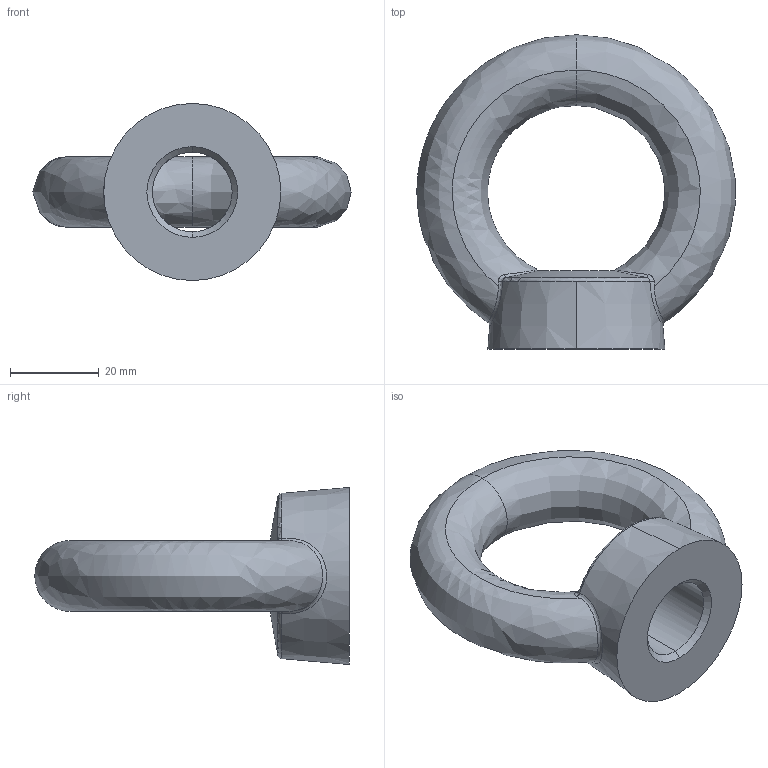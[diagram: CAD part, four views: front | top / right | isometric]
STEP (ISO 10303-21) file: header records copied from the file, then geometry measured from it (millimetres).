
FILE_DESCRIPTION (( 'STEP AP203' ), '1' );
FILE_NAME ('P4041.180-ZP.step', '2023-04-16T08:00:09', ( '' ), ( '' ), 'SwSTEP 2.0', 'SolidWorks 2019', '' );
FILE_SCHEMA (( 'CONFIG_CONTROL_DESIGN' ));
Length unit declared in the file: millimetre
Products named in the file (1): P4041.180-ZP
Bounding box: 71.87 x 70.99 x 40 mm (x, y, z)
Volume: 43060 mm3; surface area: 11337.7 mm2
Topology: 1 solids, 1 shells, 27 faces, 69 edges, 41 vertices
Faces by surface type: bspline 14, cone 7, torus 3, cylinder 2, plane 1
Entity records: 3246 total; most frequent: CARTESIAN_POINT 2620, ORIENTED_EDGE 138, DIRECTION 87, EDGE_CURVE 69, VERTEX_POINT 41, AXIS2_PLACEMENT_3D 40, B_SPLINE_CURVE_WITH_KNOTS 34, EDGE_LOOP 28
